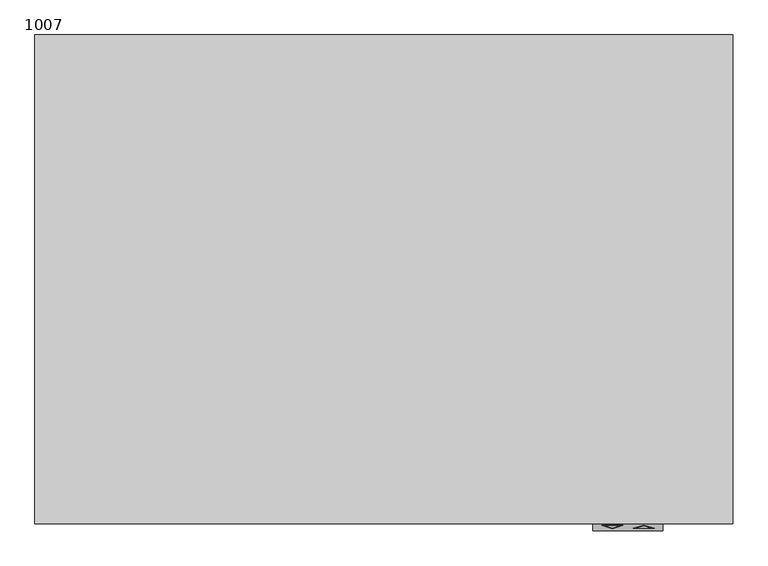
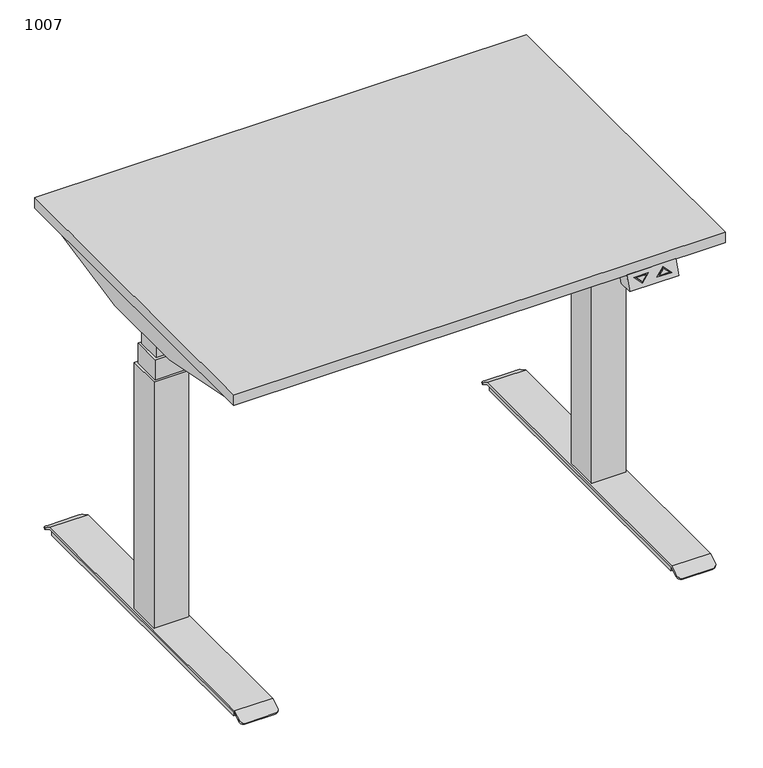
"""IFC4 building model written with IfcOpenShell, lengths in millimetres: furniture geometry, PINTA EQC : 1007."""

from ifc_helpers import new_model, si_unit, point, frame, frame_2d, origin, origin_with_axes, place, context, project, spatial, polyline, circle_curve, trimmed, segment, composite_curve, outline, extrude, faceted_brep, source, transform, mapped, element, save
from ifc_brep_helpers import plane_surface, cylinder_surface, advanced_brep


def furniture_1007_9dcb6ea2(model_context):
    return source(origin(), model_context, "Body", "SolidModel", [
        faceted_brep([(300.0, -710.0, 668.0), (300.0, -680.0, 668.0), (400.0, -680.0, 668.0), (400.0, -710.0, 668.0), (300.0, -700.0, 698.0), (400.0, -700.0, 698.0), (400.0, -670.0, 698.0), (300.0, -670.0, 698.0), (312.5, -702.6491106, 690.0526681), (342.5, -702.6491106, 690.0526681), (327.5, -707.3925271, 675.8224186), (387.5, -706.9174824, 677.2475529), (357.5, -706.9174824, 677.2475529), (372.5, -702.1740659, 691.4778023), (327.5, -706.4980999, 678.5057002), (337.6715729, -703.2815662, 688.1553015), (317.3284271, -703.2815662, 688.1553015), (382.6715729, -706.2850268, 679.1449195), (372.5, -703.0684931, 688.7945208), (362.3284271, -706.2850268, 679.1449195), (342.5, -701.7004273, 689.7364403), (312.5, -701.7004273, 689.7364403), (327.5, -706.4438438, 675.5061908), (337.6715729, -702.3328829, 687.8390737), (327.5, -705.5494166, 678.1894724), (317.3284271, -702.3328829, 687.8390737), (357.5, -705.9687991, 676.9313251), (387.5, -705.9687991, 676.9313251), (372.5, -701.2253826, 691.1615746), (372.5, -702.1198098, 688.478293), (382.6715729, -705.3363436, 678.8286917), (362.3284271, -705.3363436, 678.8286917)], [[[0, 1, 2, 3]], [[4, 5, 6, 7]], [[1, 0, 4, 7]], [[3, 2, 6, 5]], [[0, 3, 5, 4], [8, 9, 10], [11, 12, 13]], [[14, 15, 16]], [[17, 18, 19]], [[2, 1, 7, 6]], [[20, 21, 22], [23, 24, 25]], [[26, 27, 28], [29, 30, 31]], [[21, 20, 9, 8]], [[22, 21, 8, 10]], [[20, 22, 10, 9]], [[27, 26, 12, 11]], [[28, 27, 11, 13]], [[26, 28, 13, 12]], [[24, 23, 15, 14]], [[25, 24, 14, 16]], [[23, 25, 16, 15]], [[30, 29, 18, 17]], [[31, 30, 17, 19]], [[29, 31, 19, 18]]]),
        extrude(outline(polyline([(-480.0, -269.7732113), (480.0, -269.7733158), (480.0, -289.7733158), (-480.0, -289.7732113), (-480.0, -269.7732113)])), frame((0.0, 0.0, 658.0), z_axis=(0.0, 0.0, 1.0), x_axis=(1.0, 0.0, 0.0)), (0.0, 0.0, 1.0), 40.0),
        extrude(outline(polyline([(-480.0, -409.7732114), (480.0, -409.7733158), (480.0, -429.7733158), (-480.0, -429.7732114), (-480.0, -409.7732114)])), frame((0.0, 0.0, 658.0), z_axis=(0.0, 0.0, 1.0), x_axis=(1.0, 0.0, 0.0)), (0.0, 0.0, 1.0), 40.0),
        extrude(outline(polyline([(-500.0, -700.0), (-500.0, 0.0), (500.0, 0.0), (500.0, -700.0), (-500.0, -700.0)])), frame((0.0, 0.0, 698.0), z_axis=(0.0, 0.0, 1.0), x_axis=(1.0, 0.0, 0.0)), (0.0, 0.0, 1.0), 22.0),
        advanced_brep(
        [(406.9772339, -670.0, 6.0), (406.9772339, -670.0, 16.0), (406.9772339, -30.0, 16.0), (406.9772339, -30.0, 6.0), (483.0227661, -30.0, 16.0), (483.0227661, -30.0, 6.0), (483.0227661, -670.0, 16.0), (483.0227661, -670.0, 6.0), (406.0, -25.0, 20.0), (406.0, -6.9800481, 9.908827), (406.0, -8.9344616, 6.4188029), (406.0, -26.0437422, 16.0), (406.0, -673.9562578, 16.0), (406.0, -691.0655384, 6.4188029), (406.0, -693.0199519, 9.908827), (406.0, -675.0, 20.0), (484.0, -26.0437422, 16.0), (484.0, -8.9344616, 6.4188029), (484.0, -6.9800481, 9.908827), (484.0, -25.0, 20.0), (484.0, -675.0, 20.0), (484.0, -693.0199519, 9.908827), (484.0, -691.0655384, 6.4188029), (484.0, -673.9562578, 16.0), (414.0, -700.0, 6.0), (476.0, -700.0, 6.0), (414.0, -698.0455865, 2.5099759), (476.0, -698.0455865, 2.5099759), (414.0, -1.9544135, 2.5099759), (476.0, -1.9544135, 2.5099759), (414.0, 0.0, 6.0), (476.0, 0.0, 6.0)],
        [
            (0, 1),
            (1, 2),
            (2, 3),
            (3, 0),
            (2, 4),
            (4, 5),
            (5, 3),
            (4, 6),
            (6, 7),
            (7, 5),
            (6, 1),
            (0, 7),
            (8, 9),
            (9, 10),
            (10, 11),
            (11, 12),
            (12, 13),
            (13, 14),
            (14, 15),
            (15, 8),
            (16, 17),
            (17, 18),
            (18, 19),
            (19, 20),
            (20, 21),
            (21, 22),
            (22, 23),
            (23, 16),
            (15, 20),
            (19, 8),
            (11, 16),
            (23, 12),
            (14, 24, circle_curve(frame((414.0, -693.0199519, 9.908827), z_axis=(0.0, -0.4886033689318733, 0.8725060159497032), x_axis=(0.0, 0.8725060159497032, 0.4886033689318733)), 8.0)),
            (24, 25),
            (25, 21, circle_curve(frame((476.0, -693.0199519, 9.908827), z_axis=(0.0, -0.4886033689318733, 0.8725060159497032), x_axis=(0.0, 0.8725060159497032, 0.4886033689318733)), 8.0)),
            (24, 26),
            (26, 27),
            (27, 25),
            (22, 27, circle_curve(frame((476.0, -691.0655384, 6.4188029), z_axis=(0.0, 0.4886033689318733, -0.8725060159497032), x_axis=(0.0, 0.8725060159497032, 0.4886033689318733)), 8.0)),
            (26, 13, circle_curve(frame((414.0, -691.0655384, 6.4188029), z_axis=(0.0, 0.4886033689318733, -0.8725060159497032), x_axis=(0.0, 0.8725060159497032, 0.4886033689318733)), 8.0)),
            (10, 28, circle_curve(frame((414.0, -8.9344616, 6.4188029), z_axis=(0.0, -0.4886033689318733, -0.8725060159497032), x_axis=(0.0, -0.8725060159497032, 0.4886033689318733)), 8.0)),
            (28, 29),
            (29, 17, circle_curve(frame((476.0, -8.9344616, 6.4188029), z_axis=(0.0, -0.4886033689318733, -0.8725060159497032), x_axis=(0.0, -0.8725060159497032, 0.4886033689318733)), 8.0)),
            (28, 30),
            (30, 31),
            (31, 29),
            (18, 31, circle_curve(frame((476.0, -6.9800481, 9.908827), z_axis=(0.0, 0.4886033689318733, 0.8725060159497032), x_axis=(0.0, -0.8725060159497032, 0.4886033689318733)), 8.0)),
            (30, 9, circle_curve(frame((414.0, -6.9800481, 9.908827), z_axis=(0.0, 0.4886033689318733, 0.8725060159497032), x_axis=(0.0, -0.8725060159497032, 0.4886033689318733)), 8.0)),
        ],
        [
            plane_surface(frame((406.9772339, -670.0, 16.0), z_axis=(-1.0, 0.0, 0.0), x_axis=(0.0, 0.0, -1.0))),
            plane_surface(frame((406.9772339, -30.0, 16.0), z_axis=(0.0, 1.0, 0.0), x_axis=(0.0, 0.0, -1.0))),
            plane_surface(frame((483.0227661, -30.0, 16.0), z_axis=(1.0, 0.0, 0.0), x_axis=(0.0, 0.0, -1.0))),
            plane_surface(frame((483.0227661, -670.0, 16.0), z_axis=(0.0, -1.0, 0.0), x_axis=(0.0, 0.0, -1.0))),
            plane_surface(frame((406.9772339, -673.4188232, 6.0), z_axis=(0.0, 0.0, -1.0), x_axis=(0.0, -1.0, 0.0))),
            plane_surface(frame((406.0, -350.0, 20.0), z_axis=(-1.0, 0.0, 0.0), x_axis=(0.0, -1.0, 0.0))),
            plane_surface(frame((484.0, -350.0, 20.0), z_axis=(1.0, 0.0, 0.0), x_axis=(0.0, 1.0, 0.0))),
            plane_surface(frame((406.0, -25.0, 20.0), z_axis=(0.0, 0.0, 1.0), x_axis=(1.0, 0.0, 0.0))),
            plane_surface(frame((406.0, -673.9562578, 16.0), z_axis=(0.0, 0.0, -1.0), x_axis=(1.0, 0.0, 0.0))),
            plane_surface(frame((406.0, -675.0, 20.0), z_axis=(0.0, -0.4886033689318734, 0.8725060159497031), x_axis=(1.0, 0.0, 0.0))),
            plane_surface(frame((406.0, -700.0, 6.0), z_axis=(0.0, -0.872506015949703, -0.4886033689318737), x_axis=(1.0, 0.0, 0.0))),
            plane_surface(frame((406.0, -698.0455865, 2.5099759), z_axis=(0.0, 0.4886033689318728, -0.8725060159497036), x_axis=(1.0, 0.0, 0.0))),
            plane_surface(frame((406.0, -26.0437422, 16.0), z_axis=(0.0, -0.4886033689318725, -0.8725060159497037), x_axis=(1.0, 0.0, 0.0))),
            plane_surface(frame((406.0, -1.9544135, 2.5099759), z_axis=(0.0, 0.8725060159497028, -0.48860336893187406), x_axis=(1.0, 0.0, 0.0))),
            plane_surface(frame((406.0, 0.0, 6.0), z_axis=(0.0, 0.48860336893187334, 0.8725060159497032), x_axis=(1.0, 0.0, 0.0))),
            cylinder_surface(frame((414.0, -693.0199519, 9.908827), z_axis=(0.0, -0.4886033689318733, 0.8725060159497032), x_axis=(0.0, 0.8725060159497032, 0.4886033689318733)), 8.0),
            cylinder_surface(frame((476.0, -693.0199519, 9.908827), z_axis=(0.0, -0.4886033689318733, 0.8725060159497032), x_axis=(0.0, 0.8725060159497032, 0.4886033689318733)), 8.0),
            cylinder_surface(frame((414.0, -6.9800481, 9.908827), z_axis=(0.0, 0.4886033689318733, 0.8725060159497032), x_axis=(0.0, -0.8725060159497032, 0.4886033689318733)), 8.0),
            cylinder_surface(frame((476.0, -6.9800481, 9.908827), z_axis=(0.0, 0.4886033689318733, 0.8725060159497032), x_axis=(0.0, -0.8725060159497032, 0.4886033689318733)), 8.0),
        ],
        [
            (0, [[1, 2, 3, 4]]),
            (1, [[-3, 5, 6, 7]]),
            (2, [[-6, 8, 9, 10]]),
            (3, [[-9, 11, -1, 12]]),
            (4, [[-4, -7, -10, -12]]),
            (5, [[13, 14, 15, 16, 17, 18, 19, 20]]),
            (6, [[21, 22, 23, 24, 25, 26, 27, 28]]),
            (7, [[29, -24, 30, -20]]),
            (8, [[31, -28, 32, -16], [-11, -8, -5, -2]]),
            (9, [[-19, 33, 34, 35, -25, -29]]),
            (10, [[36, 37, 38, -34]]),
            (11, [[-27, 39, -37, 40, -17, -32]]),
            (12, [[-15, 41, 42, 43, -21, -31]]),
            (13, [[44, 45, 46, -42]]),
            (14, [[-23, 47, -45, 48, -13, -30]]),
            (15, [[-40, -36, -33, -18]]),
            (16, [[-35, -38, -39, -26]]),
            (17, [[-48, -44, -41, -14]]),
            (18, [[-43, -46, -47, -22]]),
        ],
    ),
        faceted_brep([(279.4551307, -410.0, 698.0), (462.9996948, -410.0, 698.0), (462.9996948, -650.0, 698.0), (479.4551307, -650.0, 698.0), (483.0, -650.0, 698.0), (483.0, -50.0, 698.0), (479.4551307, -50.0, 698.0), (462.9996948, -50.0, 698.0), (462.9996948, -290.0, 698.0), (279.4551307, -290.0, 698.0), (279.4551307, -410.0, 635.2327881), (279.4551307, -290.0, 635.2327881), (479.4551307, -290.0, 635.2327881), (479.4551307, -253.8252348, 635.2327881), (483.0, -253.8252348, 635.2327881), (483.0, -446.1747652, 635.2327881), (479.4551307, -446.1747652, 635.2327881), (479.4551307, -410.0, 635.2327881), (462.9996948, -290.0, 694.9093018), (479.4551307, -290.0, 694.9093018), (479.4551307, -410.0, 694.9093018), (462.9996948, -410.0, 694.9093018), (479.4551307, -650.0, 694.9093018), (462.9996948, -650.0, 694.9093018), (479.4551307, -50.0, 694.9093018), (462.9996948, -50.0, 694.9093018), (479.4551307, -51.1249222, 694.9093018), (479.4551307, -648.8750778, 694.9093018), (479.4551307, -58.5505036, 674.5076845), (479.4551307, -641.4494964, 674.5076845), (483.0, -58.5505036, 674.5076845), (483.0, -641.4494964, 674.5076845)], [[[0, 1, 2, 3, 4, 5, 6, 7, 8, 9]], [[10, 11, 12, 13, 14, 15, 16, 17]], [[9, 11, 10, 0]], [[11, 9, 8, 18, 19, 12]], [[17, 20, 21, 1, 0, 10]], [[22, 3, 2, 23]], [[24, 25, 7, 6]], [[24, 26, 19, 18, 25]], [[23, 21, 20, 27, 22]], [[2, 1, 21, 23]], [[25, 18, 8, 7]], [[13, 12, 19, 26, 28]], [[29, 27, 20, 17, 16]], [[15, 14, 30, 5, 4, 31]], [[16, 15, 31, 29]], [[22, 27, 3]], [[6, 26, 24]], [[4, 3, 27, 29, 31]], [[28, 30, 14, 13]], [[30, 28, 26, 6, 5]]]),
        extrude(outline(composite_curve([segment(trimmed(circle_curve(frame_2d((445.0, -655.0)), 25.0), [point((470.0, -655.0))], [point((420.0, -655.0))], False, "CARTESIAN"), True, "CONTINUOUS"), segment(trimmed(circle_curve(frame_2d((445.0, -655.0)), 25.0), [point((420.0, -655.0))], [point((470.0, -655.0))], False, "CARTESIAN"), True, "CONTINUOUS")], self_intersect=False)), origin_with_axes(), (0.0, 0.0, 1.0), 6.0),
        extrude(outline(composite_curve([segment(trimmed(circle_curve(frame_2d((445.0, -45.0)), 25.0), [point((470.0, -45.0))], [point((420.0, -45.0))], False, "CARTESIAN"), True, "CONTINUOUS"), segment(trimmed(circle_curve(frame_2d((445.0, -45.0)), 25.0), [point((420.0, -45.0))], [point((470.0, -45.0))], False, "CARTESIAN"), True, "CONTINUOUS")], self_intersect=False)), origin_with_axes(), (0.0, 0.0, 1.0), 6.0),
        faceted_brep([(410.0, -315.0, 550.0), (410.0, -384.9621325, 550.0), (480.0, -384.9621325, 550.0), (480.0, -315.0, 550.0), (475.0, -320.0, 550.0), (475.0, -379.9621325, 550.0), (415.0, -379.9621325, 550.0), (415.0, -320.0, 550.0), (410.0, -315.0, 20.0), (480.0, -315.0, 20.0), (480.0, -384.9621325, 20.0), (410.0, -384.9621325, 20.0), (415.0, -320.0, 592.616394), (415.0, -379.9621325, 592.616394), (475.0, -379.9621325, 592.616394), (475.0, -320.0, 592.616394), (470.0, -325.0, 592.616394), (470.0, -374.9621325, 592.616394), (420.0, -374.9621325, 592.616394), (420.0, -325.0, 592.616394), (420.0, -325.0, 635.2327881), (420.0, -374.9621325, 635.2327881), (470.0, -374.9621325, 635.2327881), (470.0, -325.0, 635.2327881)], [[[0, 1, 2, 3], [4, 5, 6, 7]], [[8, 9, 10, 11]], [[3, 9, 8, 0]], [[2, 10, 9, 3]], [[1, 11, 10, 2]], [[0, 8, 11, 1]], [[12, 13, 14, 15], [16, 17, 18, 19]], [[15, 4, 7, 12]], [[14, 5, 4, 15]], [[13, 6, 5, 14]], [[12, 7, 6, 13]], [[20, 21, 22, 23]], [[23, 16, 19, 20]], [[22, 17, 16, 23]], [[21, 18, 17, 22]], [[20, 19, 18, 21]]]),
        advanced_brep(
        [(-406.9772339, -670.0, 6.0), (-406.9772339, -30.0, 6.0), (-406.9772339, -30.0, 16.0), (-406.9772339, -670.0, 16.0), (-483.0227661, -30.0, 6.0), (-483.0227661, -30.0, 16.0), (-483.0227661, -670.0, 6.0), (-483.0227661, -670.0, 16.0), (-406.0, -25.0, 20.0), (-406.0, -675.0, 20.0), (-406.0, -693.0199519, 9.908827), (-406.0, -691.0655384, 6.4188029), (-406.0, -673.9562578, 16.0), (-406.0, -26.0437422, 16.0), (-406.0, -8.9344616, 6.4188029), (-406.0, -6.9800481, 9.908827), (-484.0, -26.0437422, 16.0), (-484.0, -673.9562578, 16.0), (-484.0, -691.0655384, 6.4188029), (-484.0, -693.0199519, 9.908827), (-484.0, -675.0, 20.0), (-484.0, -25.0, 20.0), (-484.0, -6.9800481, 9.908827), (-484.0, -8.9344616, 6.4188029), (-476.0, -700.0, 6.0), (-414.0, -700.0, 6.0), (-476.0, -698.0455865, 2.5099759), (-414.0, -698.0455865, 2.5099759), (-476.0, -1.9544135, 2.5099759), (-414.0, -1.9544135, 2.5099759), (-476.0, 0.0, 6.0), (-414.0, 0.0, 6.0)],
        [
            (0, 1),
            (1, 2),
            (2, 3),
            (3, 0),
            (1, 4),
            (4, 5),
            (5, 2),
            (4, 6),
            (6, 7),
            (7, 5),
            (6, 0),
            (3, 7),
            (8, 9),
            (9, 10),
            (10, 11),
            (11, 12),
            (12, 13),
            (13, 14),
            (14, 15),
            (15, 8),
            (16, 17),
            (17, 18),
            (18, 19),
            (19, 20),
            (20, 21),
            (21, 22),
            (22, 23),
            (23, 16),
            (8, 21),
            (20, 9),
            (12, 17),
            (16, 13),
            (19, 24, circle_curve(frame((-476.0, -693.0199519, 9.908827), z_axis=(0.0, -0.4886033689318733, 0.8725060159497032), x_axis=(0.0, 0.8725060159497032, 0.4886033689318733)), 8.0)),
            (24, 25),
            (25, 10, circle_curve(frame((-414.0, -693.0199519, 9.908827), z_axis=(0.0, -0.4886033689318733, 0.8725060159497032), x_axis=(0.0, 0.8725060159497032, 0.4886033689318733)), 8.0)),
            (24, 26),
            (26, 27),
            (27, 25),
            (11, 27, circle_curve(frame((-414.0, -691.0655384, 6.4188029), z_axis=(0.0, 0.4886033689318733, -0.8725060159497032), x_axis=(0.0, 0.8725060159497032, 0.4886033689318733)), 8.0)),
            (26, 18, circle_curve(frame((-476.0, -691.0655384, 6.4188029), z_axis=(0.0, 0.4886033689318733, -0.8725060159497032), x_axis=(0.0, 0.8725060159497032, 0.4886033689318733)), 8.0)),
            (23, 28, circle_curve(frame((-476.0, -8.9344616, 6.4188029), z_axis=(0.0, -0.4886033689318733, -0.8725060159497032), x_axis=(0.0, -0.8725060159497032, 0.4886033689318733)), 8.0)),
            (28, 29),
            (29, 14, circle_curve(frame((-414.0, -8.9344616, 6.4188029), z_axis=(0.0, -0.4886033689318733, -0.8725060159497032), x_axis=(0.0, -0.8725060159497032, 0.4886033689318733)), 8.0)),
            (28, 30),
            (30, 31),
            (31, 29),
            (15, 31, circle_curve(frame((-414.0, -6.9800481, 9.908827), z_axis=(0.0, 0.4886033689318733, 0.8725060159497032), x_axis=(0.0, -0.8725060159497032, 0.4886033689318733)), 8.0)),
            (30, 22, circle_curve(frame((-476.0, -6.9800481, 9.908827), z_axis=(0.0, 0.4886033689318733, 0.8725060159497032), x_axis=(0.0, -0.8725060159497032, 0.4886033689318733)), 8.0)),
        ],
        [
            plane_surface(frame((-406.9772339, -670.0, 16.0), z_axis=(1.0, 0.0, 0.0), x_axis=(0.0, 0.0, -1.0))),
            plane_surface(frame((-406.9772339, -30.0, 16.0), z_axis=(0.0, 1.0, 0.0), x_axis=(0.0, 0.0, -1.0))),
            plane_surface(frame((-483.0227661, -30.0, 16.0), z_axis=(-1.0, 0.0, 0.0), x_axis=(0.0, 0.0, -1.0))),
            plane_surface(frame((-483.0227661, -670.0, 16.0), z_axis=(0.0, -1.0, 0.0), x_axis=(0.0, 0.0, -1.0))),
            plane_surface(frame((-406.9772339, -673.4188232, 6.0), z_axis=(0.0, 0.0, -1.0), x_axis=(0.0, -1.0, 0.0))),
            plane_surface(frame((-406.0, -350.0, 20.0), z_axis=(1.0, 0.0, 0.0), x_axis=(0.0, -1.0, 0.0))),
            plane_surface(frame((-484.0, -350.0, 20.0), z_axis=(-1.0, 0.0, 0.0), x_axis=(0.0, 1.0, 0.0))),
            plane_surface(frame((-406.0, -25.0, 20.0), z_axis=(0.0, 0.0, 1.0), x_axis=(-1.0, 0.0, 0.0))),
            plane_surface(frame((-406.0, -673.9562578, 16.0), z_axis=(0.0, 0.0, -1.0), x_axis=(-1.0, 0.0, 0.0))),
            plane_surface(frame((-406.0, -675.0, 20.0), z_axis=(0.0, -0.4886033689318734, 0.8725060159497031), x_axis=(-1.0, 0.0, 0.0))),
            plane_surface(frame((-406.0, -700.0, 6.0), z_axis=(0.0, -0.872506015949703, -0.4886033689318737), x_axis=(-1.0, 0.0, 0.0))),
            plane_surface(frame((-406.0, -698.0455865, 2.5099759), z_axis=(0.0, 0.4886033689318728, -0.8725060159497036), x_axis=(-1.0, 0.0, 0.0))),
            plane_surface(frame((-406.0, -26.0437422, 16.0), z_axis=(0.0, -0.4886033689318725, -0.8725060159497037), x_axis=(-1.0, 0.0, 0.0))),
            plane_surface(frame((-406.0, -1.9544135, 2.5099759), z_axis=(0.0, 0.8725060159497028, -0.48860336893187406), x_axis=(-1.0, 0.0, 0.0))),
            plane_surface(frame((-406.0, 0.0, 6.0), z_axis=(0.0, 0.48860336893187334, 0.8725060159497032), x_axis=(-1.0, 0.0, 0.0))),
            cylinder_surface(frame((-414.0, -693.0199519, 9.908827), z_axis=(0.0, -0.4886033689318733, 0.8725060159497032), x_axis=(0.0, 0.8725060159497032, 0.4886033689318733)), 8.0),
            cylinder_surface(frame((-476.0, -693.0199519, 9.908827), z_axis=(0.0, -0.4886033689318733, 0.8725060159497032), x_axis=(0.0, 0.8725060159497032, 0.4886033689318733)), 8.0),
            cylinder_surface(frame((-414.0, -6.9800481, 9.908827), z_axis=(0.0, 0.4886033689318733, 0.8725060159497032), x_axis=(0.0, -0.8725060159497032, 0.4886033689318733)), 8.0),
            cylinder_surface(frame((-476.0, -6.9800481, 9.908827), z_axis=(0.0, 0.4886033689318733, 0.8725060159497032), x_axis=(0.0, -0.8725060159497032, 0.4886033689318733)), 8.0),
        ],
        [
            (0, [[1, 2, 3, 4]]),
            (1, [[5, 6, 7, -2]]),
            (2, [[8, 9, 10, -6]]),
            (3, [[11, -4, 12, -9]]),
            (4, [[-11, -8, -5, -1]]),
            (5, [[13, 14, 15, 16, 17, 18, 19, 20]]),
            (6, [[21, 22, 23, 24, 25, 26, 27, 28]]),
            (7, [[-13, 29, -25, 30]]),
            (8, [[-17, 31, -21, 32], [-3, -7, -10, -12]]),
            (9, [[-30, -24, 33, 34, 35, -14]]),
            (10, [[-34, 36, 37, 38]]),
            (11, [[-31, -16, 39, -37, 40, -22]]),
            (12, [[-32, -28, 41, 42, 43, -18]]),
            (13, [[-42, 44, 45, 46]]),
            (14, [[-29, -20, 47, -45, 48, -26]]),
            (15, [[-15, -35, -38, -39]]),
            (16, [[-23, -40, -36, -33]]),
            (17, [[-19, -43, -46, -47]]),
            (18, [[-27, -48, -44, -41]]),
        ],
    ),
        faceted_brep([(-279.4551307, -410.0, 698.0), (-279.4551307, -290.0, 698.0), (-462.9996948, -290.0, 698.0), (-462.9996948, -50.0, 698.0), (-479.4551307, -50.0, 698.0), (-483.0, -50.0, 698.0), (-483.0, -650.0, 698.0), (-479.4551307, -650.0, 698.0), (-462.9996948, -650.0, 698.0), (-462.9996948, -410.0, 698.0), (-279.4551307, -410.0, 635.2327881), (-479.4551307, -410.0, 635.2327881), (-479.4551307, -446.1747652, 635.2327881), (-483.0, -446.1747652, 635.2327881), (-483.0, -253.8252348, 635.2327881), (-479.4551307, -253.8252348, 635.2327881), (-479.4551307, -290.0, 635.2327881), (-279.4551307, -290.0, 635.2327881), (-479.4551307, -290.0, 694.9093018), (-462.9996948, -290.0, 694.9093018), (-462.9996948, -410.0, 694.9093018), (-479.4551307, -410.0, 694.9093018), (-479.4551307, -650.0, 694.9093018), (-462.9996948, -650.0, 694.9093018), (-479.4551307, -50.0, 694.9093018), (-462.9996948, -50.0, 694.9093018), (-479.4551307, -648.8750778, 694.9093018), (-479.4551307, -51.1249222, 694.9093018), (-479.4551307, -641.4494964, 674.5076845), (-479.4551307, -58.5505036, 674.5076845), (-483.0, -641.4494964, 674.5076845), (-483.0, -58.5505036, 674.5076845)], [[[0, 1, 2, 3, 4, 5, 6, 7, 8, 9]], [[10, 11, 12, 13, 14, 15, 16, 17]], [[1, 0, 10, 17]], [[17, 16, 18, 19, 2, 1]], [[11, 10, 0, 9, 20, 21]], [[22, 23, 8, 7]], [[24, 4, 3, 25]], [[23, 22, 26, 21, 20]], [[24, 25, 19, 18, 27]], [[8, 23, 20, 9]], [[25, 3, 2, 19]], [[28, 12, 11, 21, 26]], [[15, 29, 27, 18, 16]], [[13, 30, 6, 5, 31, 14]], [[12, 28, 30, 13]], [[22, 7, 26]], [[4, 24, 27]], [[6, 30, 28, 26, 7]], [[29, 15, 14, 31]], [[31, 5, 4, 27, 29]]]),
        extrude(outline(composite_curve([segment(trimmed(circle_curve(frame_2d((-445.0, -655.0)), 25.0), [point((-470.0, -655.0))], [point((-420.0, -655.0))], False, "CARTESIAN"), True, "CONTINUOUS"), segment(trimmed(circle_curve(frame_2d((-445.0, -655.0)), 25.0), [point((-420.0, -655.0))], [point((-470.0, -655.0))], False, "CARTESIAN"), True, "CONTINUOUS")], self_intersect=False)), origin_with_axes(), (0.0, 0.0, 1.0), 6.0),
        extrude(outline(composite_curve([segment(trimmed(circle_curve(frame_2d((-445.0, -45.0)), 25.0), [point((-470.0, -45.0))], [point((-420.0, -45.0))], False, "CARTESIAN"), True, "CONTINUOUS"), segment(trimmed(circle_curve(frame_2d((-445.0, -45.0)), 25.0), [point((-420.0, -45.0))], [point((-470.0, -45.0))], False, "CARTESIAN"), True, "CONTINUOUS")], self_intersect=False)), origin_with_axes(), (0.0, 0.0, 1.0), 6.0),
        faceted_brep([(-410.0, -315.0, 550.0), (-480.0, -315.0, 550.0), (-480.0, -384.9621325, 550.0), (-410.0, -384.9621325, 550.0), (-475.0, -320.0, 550.0), (-415.0, -320.0, 550.0), (-415.0, -379.9621325, 550.0), (-475.0, -379.9621325, 550.0), (-410.0, -315.0, 20.0), (-410.0, -384.9621325, 20.0), (-480.0, -384.9621325, 20.0), (-480.0, -315.0, 20.0), (-415.0, -320.0, 592.616394), (-475.0, -320.0, 592.616394), (-475.0, -379.9621325, 592.616394), (-415.0, -379.9621325, 592.616394), (-470.0, -325.0, 592.616394), (-420.0, -325.0, 592.616394), (-420.0, -374.9621325, 592.616394), (-470.0, -374.9621325, 592.616394), (-420.0, -325.0, 635.2327881), (-470.0, -325.0, 635.2327881), (-470.0, -374.9621325, 635.2327881), (-420.0, -374.9621325, 635.2327881)], [[[0, 1, 2, 3], [4, 5, 6, 7]], [[8, 9, 10, 11]], [[1, 0, 8, 11]], [[2, 1, 11, 10]], [[3, 2, 10, 9]], [[0, 3, 9, 8]], [[12, 13, 14, 15], [16, 17, 18, 19]], [[13, 12, 5, 4]], [[14, 13, 4, 7]], [[15, 14, 7, 6]], [[12, 15, 6, 5]], [[20, 21, 22, 23]], [[21, 20, 17, 16]], [[22, 21, 16, 19]], [[23, 22, 19, 18]], [[20, 23, 18, 17]]]),
    ])


if __name__ == "__main__":
    model = new_model("IFC4")
    model_context = context("Model", 3, world=origin())
    ifc_project = project(units=[si_unit("LENGTHUNIT", "METRE", prefix="MILLI")], contexts=[model_context])
    site = spatial("IfcSite", under=ifc_project)
    building = spatial("IfcBuilding", under=site)
    placement = place(None, origin())
    furniture_1007_shape = furniture_1007_9dcb6ea2(model_context)
    element("IfcFurniture", 1, ObjectType="PINTA EQC : 1007", at=placement, inside=building, context=model_context, shape_type="MappedRepresentation", body=[
        mapped(furniture_1007_shape, transform((0.0, 0.0, 0.0), x_axis=(1.0, 0.0, 0.0), y_axis=(0.0, 1.0, 0.0), z_axis=(0.0, 0.0, 1.0))),
    ])
    save(model, "model.ifc")
